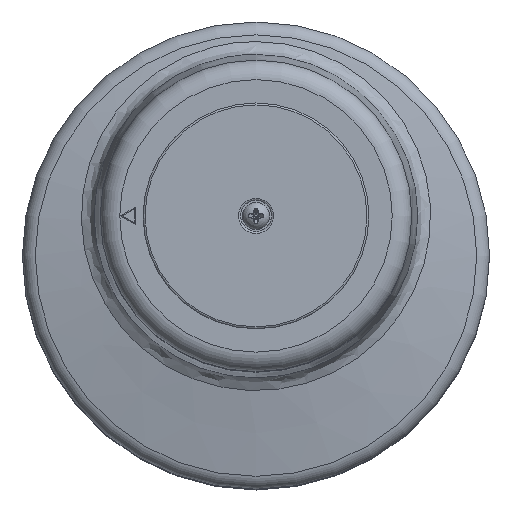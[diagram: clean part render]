
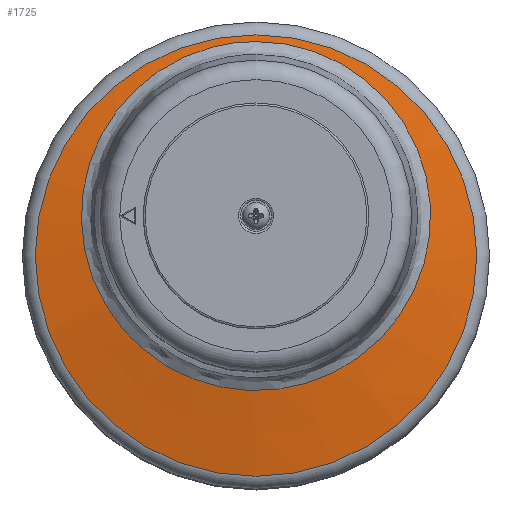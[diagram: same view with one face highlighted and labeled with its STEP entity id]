
A CAD part, top view. The second image highlights one B-rep face of the part: STEP entity #1725.
In plain terms, the highlighted conical face has half-angle 80 degrees and reference radius 45.694 mm.
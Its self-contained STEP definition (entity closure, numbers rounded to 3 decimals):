
#1725=ADVANCED_FACE('',(#4951,#4953),#4955,.T.);
#4951=FACE_OUTER_BOUND('',#4952,.T.);
#4952=EDGE_LOOP('',(#10979));
#4953=FACE_OUTER_BOUND('',#4954,.T.);
#4954=EDGE_LOOP('',(#10980));
#4955=CONICAL_SURFACE('',#4956,45.694,1.396);
#4956=AXIS2_PLACEMENT_3D('',#4957,#4958,#4959);
#4957=CARTESIAN_POINT('',(0.,17.522,0.));
#4958=DIRECTION('',(0.,-1.,0.));
#4959=DIRECTION('',(-1.,0.,0.));
#10979=ORIENTED_EDGE('',*,*,#12830,.T.);
#10980=ORIENTED_EDGE('',*,*,#12831,.F.);
#12830=EDGE_CURVE('',#13593,#13593,#13594,.T.);
#12831=EDGE_CURVE('',#13595,#13595,#13596,.T.);
#13593=VERTEX_POINT('',#16372);
#13594=B_SPLINE_CURVE_WITH_KNOTS('',3,
(#16373,#16374,#16375,#16376,#16377,#16378,#16379,#16380,#16381,#16382,#16383,#16384,
#16385,#16386,#16387,#16388,#16389,#16390,#16391,#16392,#16393,#16394,#16395,#16396,
#16397,#16398,#16399,#16400,#16401,#16402,#16403,#16404,#16405,#16406,#16407,#16408,
#16409,#16410,#16411,#16412,#16413,#16414,#16415,#16416,#16417,#16418,#16419,#16420,
#16421,#16422,#16423),
.UNSPECIFIED.,.T.,.F.,
(4,1,1,1,1,1,1,1,1,1,1,1,1,1,1,1,1,1,1,1,1,1,1,1,1,1,1,1,1,1,1,1,1,1,1,1,1,1,1,1,
1,1,1,1,1,1,1,1,4),
(0.,0.02,0.041,0.062,0.083,
0.105,0.126,0.147,0.168,0.189,
0.21,0.231,0.252,0.273,0.295,
0.316,0.337,0.358,0.379,0.401,
0.422,0.443,0.464,0.485,0.507,
0.528,0.549,0.57,0.591,0.613,
0.634,0.655,0.676,0.697,0.718,
0.74,0.761,0.782,0.803,0.824,
0.846,0.867,0.888,0.909,0.93,
0.951,0.972,0.988,1.),
.UNSPECIFIED.);
#13595=VERTEX_POINT('',#16424);
#13596=CIRCLE('',#16425,56.695);
#16372=CARTESIAN_POINT('',(-54.959,15.889,0.));
#16373=CARTESIAN_POINT('',(-54.959,15.889,0.));
#16374=CARTESIAN_POINT('',(-54.959,15.889,-1.922));
#16375=CARTESIAN_POINT('',(-54.709,15.897,-5.796));
#16376=CARTESIAN_POINT('',(-53.581,15.934,-11.546));
#16377=CARTESIAN_POINT('',(-51.687,15.995,-17.169));
#16378=CARTESIAN_POINT('',(-49.049,16.082,-22.525));
#16379=CARTESIAN_POINT('',(-45.716,16.193,-27.493));
#16380=CARTESIAN_POINT('',(-41.759,16.326,-31.971));
#16381=CARTESIAN_POINT('',(-37.247,16.48,-35.883));
#16382=CARTESIAN_POINT('',(-32.252,16.654,-39.165));
#16383=CARTESIAN_POINT('',(-26.876,16.845,-41.75));
#16384=CARTESIAN_POINT('',(-21.228,17.05,-43.594));
#16385=CARTESIAN_POINT('',(-15.385,17.268,-44.68));
#16386=CARTESIAN_POINT('',(-9.46,17.496,-44.984));
#16387=CARTESIAN_POINT('',(-3.482,17.732,-44.499));
#16388=CARTESIAN_POINT('',(2.356,17.97,-43.224));
#16389=CARTESIAN_POINT('',(8.023,18.209,-41.164));
#16390=CARTESIAN_POINT('',(13.318,18.439,-38.393));
#16391=CARTESIAN_POINT('',(18.21,18.659,-34.93));
#16392=CARTESIAN_POINT('',(22.577,18.862,-30.873));
#16393=CARTESIAN_POINT('',(26.379,19.044,-26.259));
#16394=CARTESIAN_POINT('',(29.535,19.199,-21.183));
#16395=CARTESIAN_POINT('',(31.992,19.323,-15.728));
#16396=CARTESIAN_POINT('',(33.702,19.411,-10.001));
#16397=CARTESIAN_POINT('',(34.638,19.459,-4.105));
#16398=CARTESIAN_POINT('',(34.787,19.467,1.86));
#16399=CARTESIAN_POINT('',(34.147,19.434,7.793));
#16400=CARTESIAN_POINT('',(32.724,19.36,13.604));
#16401=CARTESIAN_POINT('',(30.542,19.25,19.176));
#16402=CARTESIAN_POINT('',(27.636,19.105,24.413));
#16403=CARTESIAN_POINT('',(24.069,18.933,29.21));
#16404=CARTESIAN_POINT('',(19.895,18.737,33.491));
#16405=CARTESIAN_POINT('',(15.201,18.523,37.173));
#16406=CARTESIAN_POINT('',(10.046,18.296,40.21));
#16407=CARTESIAN_POINT('',(4.552,18.062,42.526));
#16408=CARTESIAN_POINT('',(-1.229,17.823,44.102));
#16409=CARTESIAN_POINT('',(-7.143,17.586,44.892));
#16410=CARTESIAN_POINT('',(-13.154,17.353,44.888));
#16411=CARTESIAN_POINT('',(-19.076,17.13,44.09));
#16412=CARTESIAN_POINT('',(-24.852,16.918,42.507));
#16413=CARTESIAN_POINT('',(-30.344,16.721,40.184));
#16414=CARTESIAN_POINT('',(-35.49,16.541,37.147));
#16415=CARTESIAN_POINT('',(-40.187,16.379,33.456));
#16416=CARTESIAN_POINT('',(-44.354,16.238,29.174));
#16417=CARTESIAN_POINT('',(-47.917,16.119,24.377));
#16418=CARTESIAN_POINT('',(-50.811,16.024,19.154));
#16419=CARTESIAN_POINT('',(-52.979,15.953,13.617));
#16420=CARTESIAN_POINT('',(-54.29,15.911,8.291));
#16421=CARTESIAN_POINT('',(-54.862,15.892,3.729));
#16422=CARTESIAN_POINT('',(-54.959,15.889,1.101));
#16423=CARTESIAN_POINT('',(-54.959,15.889,0.));
#16424=CARTESIAN_POINT('',(-56.695,15.583,0.));
#16425=AXIS2_PLACEMENT_3D('',#16426,#16427,#16428);
#16426=CARTESIAN_POINT('',(0.,15.583,0.));
#16427=DIRECTION('',(0.,-1.,0.));
#16428=DIRECTION('',(-1.,0.,0.));
